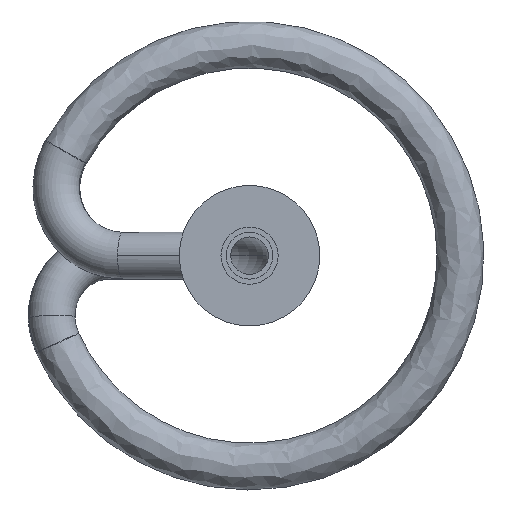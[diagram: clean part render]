
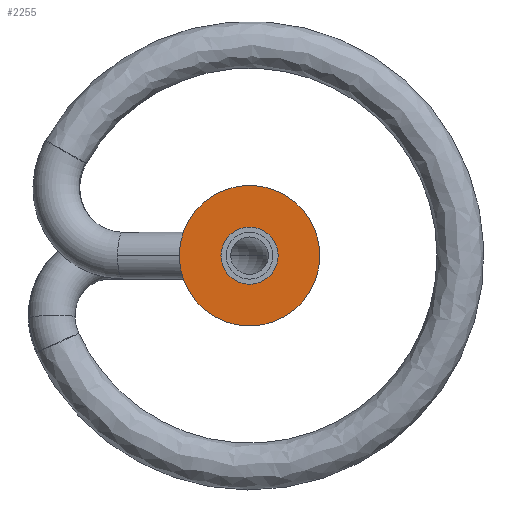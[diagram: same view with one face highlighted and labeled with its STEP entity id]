
A CAD part, front view. The second image highlights one B-rep face of the part: STEP entity #2255.
In plain terms, the highlighted planar face has unit normal (0, -1, 0) as drawn and (0, 0, 1) by its records, which use the part's own axes.
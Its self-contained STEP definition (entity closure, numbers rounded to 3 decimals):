
#159 = DIRECTION ( 'NONE',  ( 0., 0., 1. ) ) ;
#173 = EDGE_LOOP ( 'NONE', ( #1861, #260 ) ) ;
#179 = AXIS2_PLACEMENT_3D ( 'NONE', #1439, #582, #2282 ) ;
#183 = CIRCLE ( 'NONE', #2101, 15. ) ;
#260 = ORIENTED_EDGE ( 'NONE', *, *, #1048, .F. ) ;
#283 = FACE_BOUND ( 'NONE', #173, .T. ) ;
#338 = CARTESIAN_POINT ( 'NONE',  ( -15., 0., 0. ) ) ;
#347 = ORIENTED_EDGE ( 'NONE', *, *, #553, .T. ) ;
#524 = AXIS2_PLACEMENT_3D ( 'NONE', #724, #2195, #1987 ) ;
#536 = CARTESIAN_POINT ( 'NONE',  ( 0., 0., 0. ) ) ;
#553 = EDGE_CURVE ( 'NONE', #1859, #794, #877, .T. ) ;
#582 = DIRECTION ( 'NONE',  ( 0., 0., 1. ) ) ;
#609 = ORIENTED_EDGE ( 'NONE', *, *, #987, .T. ) ;
#713 = CARTESIAN_POINT ( 'NONE',  ( 15., 0., 0. ) ) ;
#724 = CARTESIAN_POINT ( 'NONE',  ( 0., 0., 0. ) ) ;
#755 = DIRECTION ( 'NONE',  ( 0., 0., 1. ) ) ;
#762 = AXIS2_PLACEMENT_3D ( 'NONE', #536, #755, #2456 ) ;
#766 = CIRCLE ( 'NONE', #2081, 6.1 ) ;
#794 = VERTEX_POINT ( 'NONE', #338 ) ;
#877 = CIRCLE ( 'NONE', #524, 15. ) ;
#932 = CIRCLE ( 'NONE', #762, 6.1 ) ;
#987 = EDGE_CURVE ( 'NONE', #794, #1859, #183, .T. ) ;
#1048 = EDGE_CURVE ( 'NONE', #1184, #2004, #932, .T. ) ;
#1171 = CARTESIAN_POINT ( 'NONE',  ( 6.1, 0., 0. ) ) ;
#1184 = VERTEX_POINT ( 'NONE', #2720 ) ;
#1333 = CARTESIAN_POINT ( 'NONE',  ( 0., 0., 0. ) ) ;
#1439 = CARTESIAN_POINT ( 'NONE',  ( 0., 15., 0. ) ) ;
#1444 = CARTESIAN_POINT ( 'NONE',  ( 0., 0., 0. ) ) ;
#1458 = EDGE_CURVE ( 'NONE', #2004, #1184, #766, .T. ) ;
#1536 = DIRECTION ( 'NONE',  ( 1., 0., 0. ) ) ;
#1752 = DIRECTION ( 'NONE',  ( 0., 0., 1. ) ) ;
#1852 = PLANE ( 'NONE',  #179 ) ;
#1859 = VERTEX_POINT ( 'NONE', #713 ) ;
#1861 = ORIENTED_EDGE ( 'NONE', *, *, #1458, .F. ) ;
#1987 = DIRECTION ( 'NONE',  ( 1., 0., 0. ) ) ;
#2004 = VERTEX_POINT ( 'NONE', #1171 ) ;
#2081 = AXIS2_PLACEMENT_3D ( 'NONE', #1333, #1752, #1536 ) ;
#2101 = AXIS2_PLACEMENT_3D ( 'NONE', #1444, #159, #2276 ) ;
#2195 = DIRECTION ( 'NONE',  ( 0., 0., 1. ) ) ;
#2255 = ADVANCED_FACE ( 'NONE', ( #2485, #283 ), #1852, .T. ) ;
#2276 = DIRECTION ( 'NONE',  ( 1., 0., 0. ) ) ;
#2282 = DIRECTION ( 'NONE',  ( 1., 0., 0. ) ) ;
#2456 = DIRECTION ( 'NONE',  ( 1., 0., 0. ) ) ;
#2485 = FACE_OUTER_BOUND ( 'NONE', #2513, .T. ) ;
#2513 = EDGE_LOOP ( 'NONE', ( #347, #609 ) ) ;
#2720 = CARTESIAN_POINT ( 'NONE',  ( -6.1, 0., 0. ) ) ;
